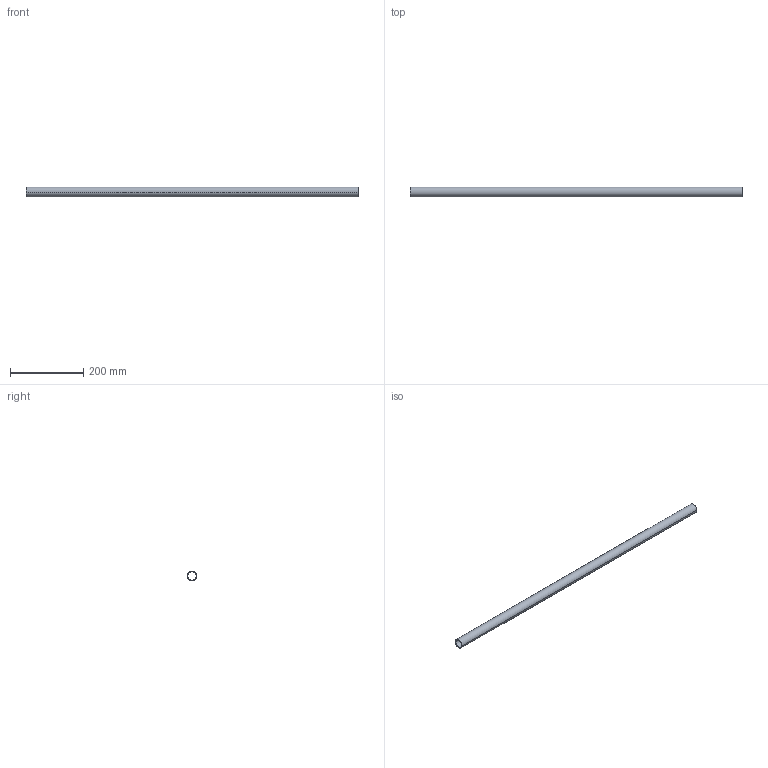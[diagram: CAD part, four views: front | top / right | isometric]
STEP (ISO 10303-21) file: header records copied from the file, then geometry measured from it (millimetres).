
FILE_DESCRIPTION (( 'STEP AP214' ), '1' );
FILE_NAME ('CCJ029-REP.352 - LISSE EXCROISSANCE FILE 5.STEP', '2025-11-04T10:49:44', ( '' ), ( '' ), 'SwSTEP 2.0', 'SolidWorks 2021', '' );
FILE_SCHEMA (( 'AUTOMOTIVE_DESIGN' ));
Length unit declared in the file: millimetre
Products named in the file (1): CCJ029-REP.352 - LISSE EXCROISSANCE FILE 5
Bounding box: 905 x 26.9 x 26.9 mm (x, y, z)
Volume: 160864.9 mm3; surface area: 140238.1 mm2
Topology: 1 solids, 1 shells, 6 faces, 12 edges, 8 vertices
Faces by surface type: cylinder 4, plane 2
Entity records: 202 total; most frequent: DIRECTION 34, CARTESIAN_POINT 27, ORIENTED_EDGE 24, AXIS2_PLACEMENT_3D 15, EDGE_CURVE 12, VERTEX_POINT 8, CIRCLE 8, EDGE_LOOP 8
